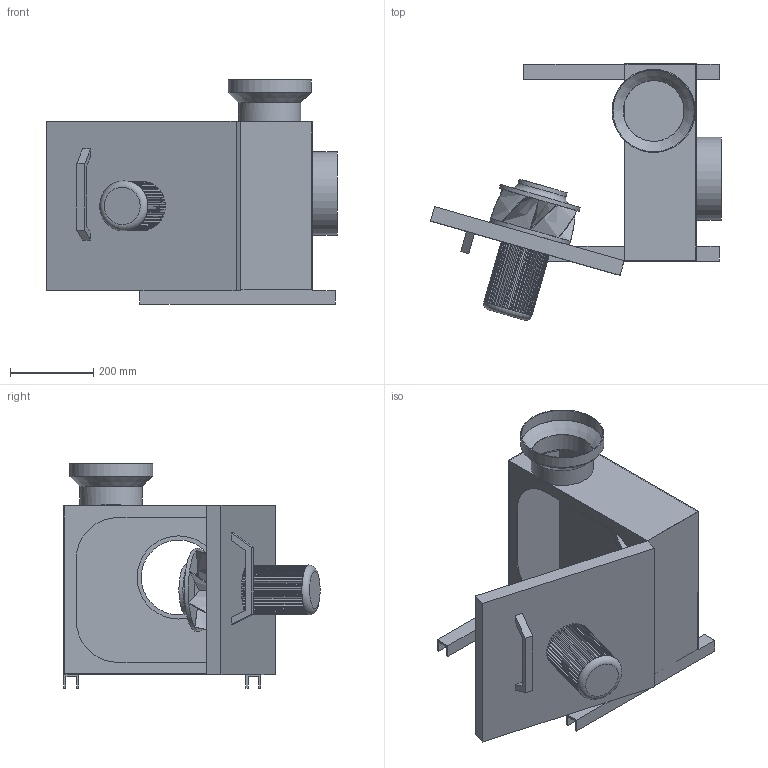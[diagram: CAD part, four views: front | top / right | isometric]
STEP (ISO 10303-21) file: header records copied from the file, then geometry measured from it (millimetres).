
FILE_DESCRIPTION(/* description */ (''),/* implementation_level */ '2;1');
FILE_NAME(/* name */ 'Z:\Output\MBD 225-4 EX-06011-006.stp',/* time_stamp */ '2017-05-05T13:21:25+02:00',/* author */ ('jayeshpanchal'),/* organization */ (''),/* preprocessor_version */ 'ST-DEVELOPER v16.5',/* originating_system */ 'Autodesk Inventor 2017',/* authorisation */ '');
FILE_SCHEMA (('AUTOMOTIVE_DESIGN { 1 0 10303 214 3 1 1 }'));
Length unit declared in the file: millimetre
Products named in the file (1): MB-1
Bounding box: 699.56 x 616.42 x 539 mm (x, y, z)
Volume: 11052665.6 mm3; surface area: 2296919.4 mm2
Topology: 2 solids, 2 shells, 369 faces, 955 edges, 579 vertices
Faces by surface type: plane 281, cylinder 60, bspline 24, cone 2, torus 2
Full cylindrical faces by diameter (mm): 100 x1, 120 x1, 146 x1, 150 x1, 180 x1, 196 x1, 200 x5
Entity records: 11395 total; most frequent: CARTESIAN_POINT 2445, ORIENTED_EDGE 1872, DIRECTION 1815, EDGE_CURVE 934, LINE 697, VECTOR 697, VERTEX_POINT 573, AXIS2_PLACEMENT_3D 559
